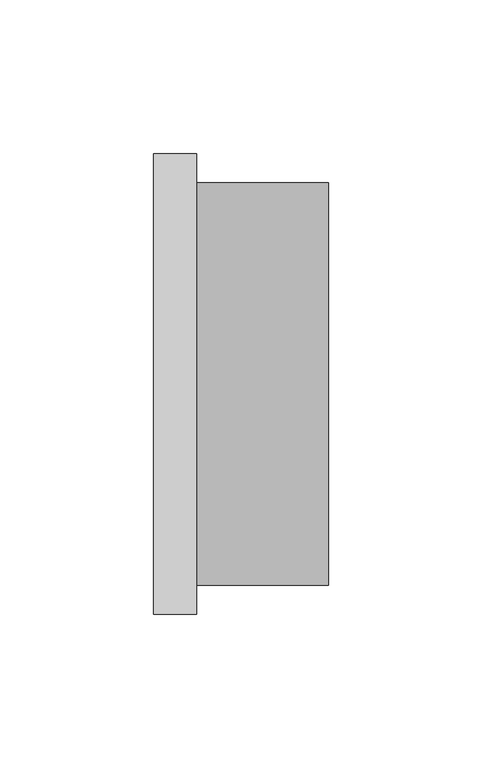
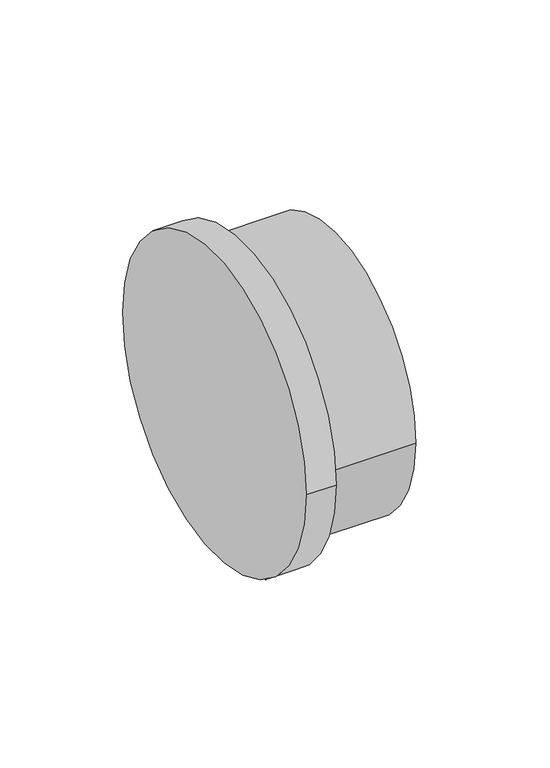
"""IFC4 building model written with IfcOpenShell, lengths in millimetres: pipe fitting geometry, NIRON RED termofusion casquillo : Estándar."""

from ifc_helpers import new_model, si_unit, point, frame, origin, origin_2d, place, context, project, spatial, circle_curve, trimmed, segment, composite_curve, outline, extrude, source, transform, mapped, element, save


def pipe_fitting_42a8c773(model_context):
    return source(origin(), model_context, "Body", "SweptSolid", [
        extrude(outline(composite_curve([segment(trimmed(circle_curve(origin_2d(), 65.5), [point((65.5, 0.0))], [point((-65.5, 0.0))], False, "CARTESIAN"), True, "CONTINUOUS"), segment(trimmed(circle_curve(origin_2d(), 65.5), [point((-65.5, 0.0))], [point((65.5, 0.0))], False, "CARTESIAN"), True, "CONTINUOUS")], self_intersect=False)), frame((14.0, 0.0, 0.0), z_axis=(1.0, 0.0, 0.0), x_axis=(0.0, 1.0, 0.0)), (0.0, 0.0, 1.0), 43.0),
        extrude(outline(composite_curve([segment(trimmed(circle_curve(origin_2d(), 75.0), [point((-75.0, 0.0))], [point((75.0, 0.0))], False, "CARTESIAN"), True, "CONTINUOUS"), segment(trimmed(circle_curve(origin_2d(), 75.0), [point((75.0, 0.0))], [point((-75.0, 0.0))], False, "CARTESIAN"), True, "CONTINUOUS")], self_intersect=False)), frame((0.0, 0.0, 0.0), z_axis=(1.0, 0.0, 0.0), x_axis=(0.0, 1.0, 0.0)), (0.0, 0.0, 1.0), 14.0),
    ])


if __name__ == "__main__":
    model = new_model("IFC4")
    model_context = context("Model", 3, world=origin())
    ifc_project = project(units=[si_unit("LENGTHUNIT", "METRE", prefix="MILLI")], contexts=[model_context])
    site = spatial("IfcSite", under=ifc_project)
    building = spatial("IfcBuilding", under=site)
    placement = place(None, origin())
    pipe_fitting_shape = pipe_fitting_42a8c773(model_context)
    element("IfcPipeFitting", 1, ObjectType="NIRON RED termofusion casquillo : Estándar", at=placement, inside=building, context=model_context, shape_type="MappedRepresentation", body=[
        mapped(pipe_fitting_shape, transform((0.0, 0.0, 0.0), x_axis=(1.0, 0.0, 0.0), y_axis=(0.0, 1.0, 0.0), z_axis=(0.0, 0.0, 1.0))),
    ])
    save(model, "model.ifc")
